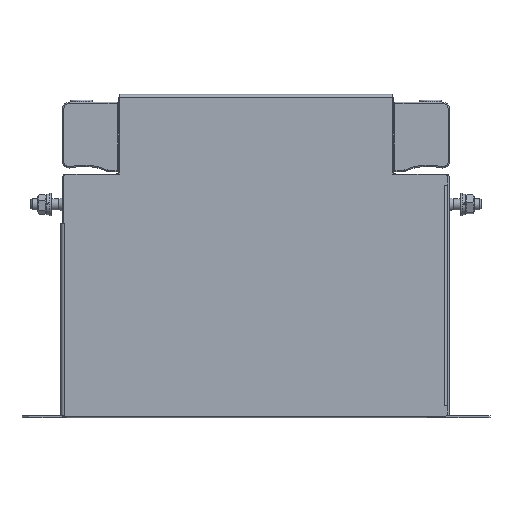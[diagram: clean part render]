
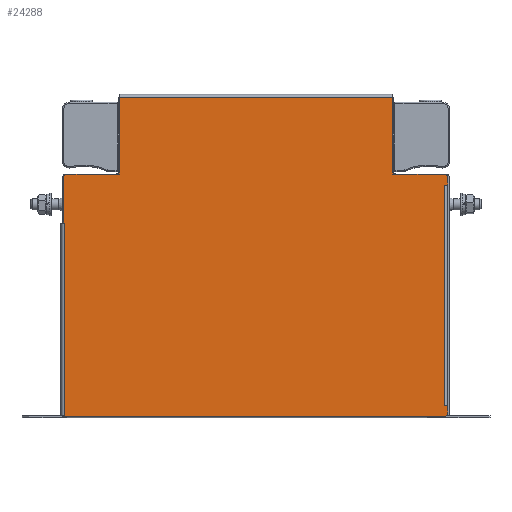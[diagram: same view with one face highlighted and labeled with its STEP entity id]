
A CAD part, top view. The second image highlights one B-rep face of the part: STEP entity #24288.
In plain terms, the highlighted planar face has unit normal (0, 0, 1).
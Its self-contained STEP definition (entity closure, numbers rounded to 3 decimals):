
#2785=FACE_OUTER_BOUND('',#4308,.T.);
#4308=EDGE_LOOP('',(#20195,#20196,#20197,#20198,#20199,#20200,#20201,#20202,
#20203,#20204,#20205,#20206,#20207,#20208,#20209,#20210,#20211,#20212,#20213,
#20214,#20215,#20216,#20217,#20218,#20219,#20220,#20221));
#6619=LINE('',#40223,#8945);
#6620=LINE('',#40225,#8946);
#6621=LINE('',#40227,#8947);
#6622=LINE('',#40229,#8948);
#6623=LINE('',#40231,#8949);
#6624=LINE('',#40233,#8950);
#6625=LINE('',#40235,#8951);
#6626=LINE('',#40237,#8952);
#6627=LINE('',#40239,#8953);
#6628=LINE('',#40241,#8954);
#6629=LINE('',#40243,#8955);
#6630=LINE('',#40245,#8956);
#6631=LINE('',#40247,#8957);
#6632=LINE('',#40249,#8958);
#6633=LINE('',#40251,#8959);
#6634=LINE('',#40253,#8960);
#6635=LINE('',#40255,#8961);
#6636=LINE('',#40257,#8962);
#6637=LINE('',#40259,#8963);
#6638=LINE('',#40261,#8964);
#6639=LINE('',#40263,#8965);
#6640=LINE('',#40265,#8966);
#6641=LINE('',#40267,#8967);
#6642=LINE('',#40269,#8968);
#6643=LINE('',#40271,#8969);
#6644=LINE('',#40273,#8970);
#6645=LINE('',#40274,#8971);
#8945=VECTOR('',#32736,10.);
#8946=VECTOR('',#32737,10.);
#8947=VECTOR('',#32738,10.);
#8948=VECTOR('',#32739,10.);
#8949=VECTOR('',#32740,10.);
#8950=VECTOR('',#32741,10.);
#8951=VECTOR('',#32742,10.);
#8952=VECTOR('',#32743,10.);
#8953=VECTOR('',#32744,10.);
#8954=VECTOR('',#32745,10.);
#8955=VECTOR('',#32746,10.);
#8956=VECTOR('',#32747,10.);
#8957=VECTOR('',#32748,10.);
#8958=VECTOR('',#32749,10.);
#8959=VECTOR('',#32750,10.);
#8960=VECTOR('',#32751,10.);
#8961=VECTOR('',#32752,10.);
#8962=VECTOR('',#32753,10.);
#8963=VECTOR('',#32754,10.);
#8964=VECTOR('',#32755,10.);
#8965=VECTOR('',#32756,10.);
#8966=VECTOR('',#32757,10.);
#8967=VECTOR('',#32758,10.);
#8968=VECTOR('',#32759,10.);
#8969=VECTOR('',#32760,10.);
#8970=VECTOR('',#32761,10.);
#8971=VECTOR('',#32762,10.);
#10989=VERTEX_POINT('',#40221);
#10990=VERTEX_POINT('',#40222);
#10991=VERTEX_POINT('',#40224);
#10992=VERTEX_POINT('',#40226);
#10993=VERTEX_POINT('',#40228);
#10994=VERTEX_POINT('',#40230);
#10995=VERTEX_POINT('',#40232);
#10996=VERTEX_POINT('',#40234);
#10997=VERTEX_POINT('',#40236);
#10998=VERTEX_POINT('',#40238);
#10999=VERTEX_POINT('',#40240);
#11000=VERTEX_POINT('',#40242);
#11001=VERTEX_POINT('',#40244);
#11002=VERTEX_POINT('',#40246);
#11003=VERTEX_POINT('',#40248);
#11004=VERTEX_POINT('',#40250);
#11005=VERTEX_POINT('',#40252);
#11006=VERTEX_POINT('',#40254);
#11007=VERTEX_POINT('',#40256);
#11008=VERTEX_POINT('',#40258);
#11009=VERTEX_POINT('',#40260);
#11010=VERTEX_POINT('',#40262);
#11011=VERTEX_POINT('',#40264);
#11012=VERTEX_POINT('',#40266);
#11013=VERTEX_POINT('',#40268);
#11014=VERTEX_POINT('',#40270);
#11015=VERTEX_POINT('',#40272);
#14102=EDGE_CURVE('',#10989,#10990,#6619,.T.);
#14103=EDGE_CURVE('',#10991,#10989,#6620,.T.);
#14104=EDGE_CURVE('',#10991,#10992,#6621,.T.);
#14105=EDGE_CURVE('',#10992,#10993,#6622,.T.);
#14106=EDGE_CURVE('',#10993,#10994,#6623,.T.);
#14107=EDGE_CURVE('',#10994,#10995,#6624,.T.);
#14108=EDGE_CURVE('',#10995,#10996,#6625,.T.);
#14109=EDGE_CURVE('',#10996,#10997,#6626,.T.);
#14110=EDGE_CURVE('',#10997,#10998,#6627,.T.);
#14111=EDGE_CURVE('',#10999,#10998,#6628,.T.);
#14112=EDGE_CURVE('',#11000,#10999,#6629,.T.);
#14113=EDGE_CURVE('',#11001,#11000,#6630,.T.);
#14114=EDGE_CURVE('',#11002,#11001,#6631,.T.);
#14115=EDGE_CURVE('',#11002,#11003,#6632,.T.);
#14116=EDGE_CURVE('',#11003,#11004,#6633,.T.);
#14117=EDGE_CURVE('',#11004,#11005,#6634,.T.);
#14118=EDGE_CURVE('',#11005,#11006,#6635,.T.);
#14119=EDGE_CURVE('',#11006,#11007,#6636,.T.);
#14120=EDGE_CURVE('',#11007,#11008,#6637,.T.);
#14121=EDGE_CURVE('',#11008,#11009,#6638,.T.);
#14122=EDGE_CURVE('',#11010,#11009,#6639,.T.);
#14123=EDGE_CURVE('',#11011,#11010,#6640,.T.);
#14124=EDGE_CURVE('',#11011,#11012,#6641,.T.);
#14125=EDGE_CURVE('',#11012,#11013,#6642,.T.);
#14126=EDGE_CURVE('',#11013,#11014,#6643,.T.);
#14127=EDGE_CURVE('',#11014,#11015,#6644,.T.);
#14128=EDGE_CURVE('',#11015,#10990,#6645,.T.);
#20195=ORIENTED_EDGE('',*,*,#14102,.F.);
#20196=ORIENTED_EDGE('',*,*,#14103,.F.);
#20197=ORIENTED_EDGE('',*,*,#14104,.T.);
#20198=ORIENTED_EDGE('',*,*,#14105,.T.);
#20199=ORIENTED_EDGE('',*,*,#14106,.T.);
#20200=ORIENTED_EDGE('',*,*,#14107,.T.);
#20201=ORIENTED_EDGE('',*,*,#14108,.T.);
#20202=ORIENTED_EDGE('',*,*,#14109,.T.);
#20203=ORIENTED_EDGE('',*,*,#14110,.T.);
#20204=ORIENTED_EDGE('',*,*,#14111,.F.);
#20205=ORIENTED_EDGE('',*,*,#14112,.F.);
#20206=ORIENTED_EDGE('',*,*,#14113,.F.);
#20207=ORIENTED_EDGE('',*,*,#14114,.F.);
#20208=ORIENTED_EDGE('',*,*,#14115,.T.);
#20209=ORIENTED_EDGE('',*,*,#14116,.T.);
#20210=ORIENTED_EDGE('',*,*,#14117,.T.);
#20211=ORIENTED_EDGE('',*,*,#14118,.T.);
#20212=ORIENTED_EDGE('',*,*,#14119,.T.);
#20213=ORIENTED_EDGE('',*,*,#14120,.T.);
#20214=ORIENTED_EDGE('',*,*,#14121,.T.);
#20215=ORIENTED_EDGE('',*,*,#14122,.F.);
#20216=ORIENTED_EDGE('',*,*,#14123,.F.);
#20217=ORIENTED_EDGE('',*,*,#14124,.T.);
#20218=ORIENTED_EDGE('',*,*,#14125,.T.);
#20219=ORIENTED_EDGE('',*,*,#14126,.T.);
#20220=ORIENTED_EDGE('',*,*,#14127,.T.);
#20221=ORIENTED_EDGE('',*,*,#14128,.T.);
#21566=PLANE('',#26440);
#24288=ADVANCED_FACE('',(#2785),#21566,.T.);
#26440=AXIS2_PLACEMENT_3D('',#40220,#32734,#32735);
#32734=DIRECTION('center_axis',(0.,0.,
1.));
#32735=DIRECTION('ref_axis',(1.,0.,0.));
#32736=DIRECTION('',(0.707,0.707,0.));
#32737=DIRECTION('',(0.,1.,0.));
#32738=DIRECTION('',(1.,0.,0.));
#32739=DIRECTION('',(0.,-1.,0.));
#32740=DIRECTION('',(-1.,0.,0.));
#32741=DIRECTION('',(0.,-1.,0.));
#32742=DIRECTION('',(1.,0.,0.));
#32743=DIRECTION('',(0.,-1.,0.));
#32744=DIRECTION('',(-1.,0.,0.));
#32745=DIRECTION('',(0.,1.,0.));
#32746=DIRECTION('',(-1.,0.,0.));
#32747=DIRECTION('',(-0.707,-0.707,0.));
#32748=DIRECTION('',(0.,-1.,0.));
#32749=DIRECTION('',(-1.,0.,0.));
#32750=DIRECTION('',(0.,1.,0.));
#32751=DIRECTION('',(1.,0.,0.));
#32752=DIRECTION('',(0.,1.,0.));
#32753=DIRECTION('',(-1.,0.,0.));
#32754=DIRECTION('',(0.,1.,0.));
#32755=DIRECTION('',(1.,0.,0.));
#32756=DIRECTION('',(0.,-1.,0.));
#32757=DIRECTION('',(0.707,-0.707,0.));
#32758=DIRECTION('',(-1.,0.,0.));
#32759=DIRECTION('',(0.,1.,0.));
#32760=DIRECTION('',(-1.,0.,0.));
#32761=DIRECTION('',(0.,-1.,0.));
#32762=DIRECTION('',(-1.,0.,0.));
#40220=CARTESIAN_POINT('Origin',(0.,72.75,
22.45));
#40221=CARTESIAN_POINT('',(-86.3,108.3,22.45));
#40222=CARTESIAN_POINT('',(-85.3,109.3,22.45));
#40223=CARTESIAN_POINT('',(-73.363,121.238,22.45));
#40224=CARTESIAN_POINT('',(-86.3,87.31,22.45));
#40225=CARTESIAN_POINT('',(-86.3,63.825,22.45));
#40226=CARTESIAN_POINT('',(-85.99,87.31,22.45));
#40227=CARTESIAN_POINT('',(-43.4,87.31,22.45));
#40228=CARTESIAN_POINT('',(-85.99,87.3,22.45));
#40229=CARTESIAN_POINT('',(-85.99,80.03,22.45));
#40230=CARTESIAN_POINT('',(-86.,87.3,22.45));
#40231=CARTESIAN_POINT('',(-42.995,87.3,22.45));
#40232=CARTESIAN_POINT('',(-86.,1.,22.45));
#40233=CARTESIAN_POINT('',(-86.,80.025,22.45));
#40234=CARTESIAN_POINT('',(-85.99,1.,22.45));
#40235=CARTESIAN_POINT('',(-43.4,1.,22.45));
#40236=CARTESIAN_POINT('',(-85.99,0.99,22.45));
#40237=CARTESIAN_POINT('',(-85.99,36.875,22.45));
#40238=CARTESIAN_POINT('',(-86.8,0.99,22.45));
#40239=CARTESIAN_POINT('',(-42.995,0.99,22.45));
#40240=CARTESIAN_POINT('',(-86.8,0.5,22.45));
#40241=CARTESIAN_POINT('',(-86.8,0.5,22.45));
#40242=CARTESIAN_POINT('',(85.,0.5,22.45));
#40243=CARTESIAN_POINT('',(-86.,0.5,22.45));
#40244=CARTESIAN_POINT('',(86.,1.5,22.45));
#40245=CARTESIAN_POINT('',(82.062,-2.438,22.45));
#40246=CARTESIAN_POINT('',(86.,5.49,22.45));
#40247=CARTESIAN_POINT('',(86.,0.5,22.45));
#40248=CARTESIAN_POINT('',(84.49,5.49,22.45));
#40249=CARTESIAN_POINT('',(43.,5.49,22.45));
#40250=CARTESIAN_POINT('',(84.49,5.5,22.45));
#40251=CARTESIAN_POINT('',(84.49,39.12,22.45));
#40252=CARTESIAN_POINT('',(84.5,5.5,22.45));
#40253=CARTESIAN_POINT('',(42.245,5.5,22.45));
#40254=CARTESIAN_POINT('',(84.5,104.3,22.45));
#40255=CARTESIAN_POINT('',(84.5,39.125,22.45));
#40256=CARTESIAN_POINT('',(84.49,104.3,22.45));
#40257=CARTESIAN_POINT('',(43.,104.3,22.45));
#40258=CARTESIAN_POINT('',(84.49,104.31,22.45));
#40259=CARTESIAN_POINT('',(84.49,88.525,22.45));
#40260=CARTESIAN_POINT('',(86.,104.31,22.45));
#40261=CARTESIAN_POINT('',(42.245,104.31,22.45));
#40262=CARTESIAN_POINT('',(86.,108.3,22.45));
#40263=CARTESIAN_POINT('',(86.,0.5,22.45));
#40264=CARTESIAN_POINT('',(85.,109.3,22.45));
#40265=CARTESIAN_POINT('',(73.137,121.163,22.45));
#40266=CARTESIAN_POINT('',(61.3,109.3,22.45));
#40267=CARTESIAN_POINT('',(43.,109.3,22.45));
#40268=CARTESIAN_POINT('',(61.3,143.5,22.45));
#40269=CARTESIAN_POINT('',(61.3,91.025,22.45));
#40270=CARTESIAN_POINT('',(-61.3,143.5,22.45));
#40271=CARTESIAN_POINT('',(30.65,143.5,22.45));
#40272=CARTESIAN_POINT('',(-61.3,109.3,22.45));
#40273=CARTESIAN_POINT('',(-61.3,108.875,22.45));
#40274=CARTESIAN_POINT('',(-30.65,109.3,22.45));
